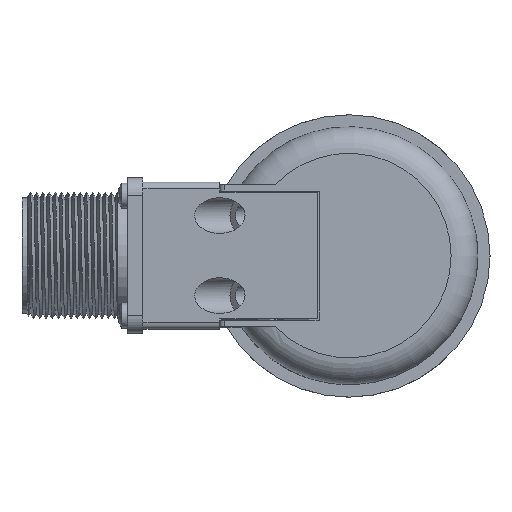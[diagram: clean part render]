
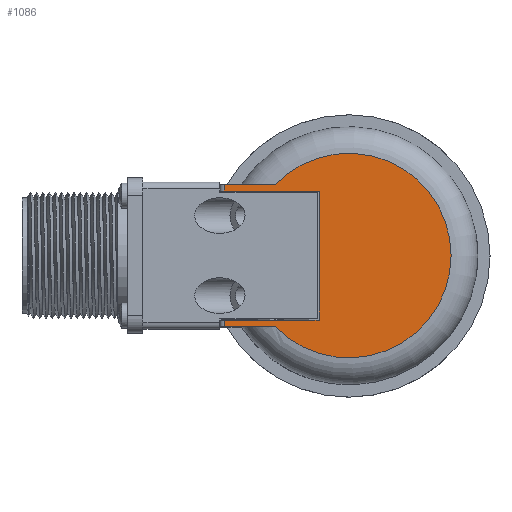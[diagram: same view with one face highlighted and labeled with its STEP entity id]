
A CAD part, top view. The second image highlights one B-rep face of the part: STEP entity #1086.
In plain terms, the highlighted planar face has unit normal (0, 0, 1).
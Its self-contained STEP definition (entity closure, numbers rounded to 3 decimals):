
#1086 = ADVANCED_FACE( '', ( #2645 ), #2646, .T. );
#2645 = FACE_OUTER_BOUND( '', #11415, .T. );
#2646 = PLANE( '', #11416 );
#11415 = EDGE_LOOP( '', ( #20598, #20599, #20600, #20601, #20602, #20603, #20604, #20605 ) );
#11416 = AXIS2_PLACEMENT_3D( '', #20606, #20607, #20608 );
#20598 = ORIENTED_EDGE( '', *, *, #24815, .T. );
#20599 = ORIENTED_EDGE( '', *, *, #24816, .T. );
#20600 = ORIENTED_EDGE( '', *, *, #24491, .T. );
#20601 = ORIENTED_EDGE( '', *, *, #24023, .T. );
#20602 = ORIENTED_EDGE( '', *, *, #24817, .F. );
#20603 = ORIENTED_EDGE( '', *, *, #24818, .F. );
#20604 = ORIENTED_EDGE( '', *, *, #24448, .T. );
#20605 = ORIENTED_EDGE( '', *, *, #24719, .T. );
#20606 = CARTESIAN_POINT( '', ( -29., 29., 49.9 ) );
#20607 = DIRECTION( '', ( 0., 0., 1. ) );
#20608 = DIRECTION( '', ( 0., -1., 0. ) );
#24023 = EDGE_CURVE( '', #26214, #26212, #26215, .T. );
#24448 = EDGE_CURVE( '', #26914, #26918, #26920, .T. );
#24491 = EDGE_CURVE( '', #26985, #26214, #26988, .T. );
#24719 = EDGE_CURVE( '', #26918, #27346, #27348, .T. );
#24815 = EDGE_CURVE( '', #27346, #27490, #27491, .T. );
#24816 = EDGE_CURVE( '', #27490, #26985, #27492, .T. );
#24817 = EDGE_CURVE( '', #27493, #26212, #27494, .T. );
#24818 = EDGE_CURVE( '', #26914, #27493, #27495, .T. );
#26212 = VERTEX_POINT( '', #29768 );
#26214 = VERTEX_POINT( '', #29771 );
#26215 = LINE( '', #29772, #29773 );
#26914 = VERTEX_POINT( '', #32870 );
#26918 = VERTEX_POINT( '', #32875 );
#26920 = LINE( '', #32877, #32878 );
#26985 = VERTEX_POINT( '', #33074 );
#26988 = LINE( '', #33078, #33079 );
#27346 = VERTEX_POINT( '', #34560 );
#27348 = LINE( '', #34574, #34575 );
#27490 = VERTEX_POINT( '', #34828 );
#27491 = CIRCLE( '', #34829, 23. );
#27492 = LINE( '', #34830, #34831 );
#27493 = VERTEX_POINT( '', #34832 );
#27494 = LINE( '', #34833, #34834 );
#27495 = LINE( '', #34835, #34836 );
#29768 = CARTESIAN_POINT( '', ( -6.7, 14.5, 49.9 ) );
#29771 = CARTESIAN_POINT( '', ( -28., 14.5, 49.9 ) );
#29772 = CARTESIAN_POINT( '', ( -29., 14.5, 49.9 ) );
#29773 = VECTOR( '', #38208, 1000. );
#32870 = CARTESIAN_POINT( '', ( -28., -14.5, 49.9 ) );
#32875 = CARTESIAN_POINT( '', ( -28., -16., 49.9 ) );
#32877 = CARTESIAN_POINT( '', ( -28., -16., 49.9 ) );
#32878 = VECTOR( '', #38701, 1000. );
#33074 = CARTESIAN_POINT( '', ( -28., 16., 49.9 ) );
#33078 = CARTESIAN_POINT( '', ( -28., 14.5, 49.9 ) );
#33079 = VECTOR( '', #38741, 1000. );
#34560 = CARTESIAN_POINT( '', ( -16.523, -16., 49.9 ) );
#34574 = CARTESIAN_POINT( '', ( -24.187, -16., 49.9 ) );
#34575 = VECTOR( '', #39016, 1000. );
#34828 = CARTESIAN_POINT( '', ( -16.523, 16., 49.9 ) );
#34829 = AXIS2_PLACEMENT_3D( '', #39121, #39122, #39123 );
#34830 = CARTESIAN_POINT( '', ( -29., 16., 49.9 ) );
#34831 = VECTOR( '', #39124, 1000. );
#34832 = CARTESIAN_POINT( '', ( -6.7, -14.5, 49.9 ) );
#34833 = CARTESIAN_POINT( '', ( -6.7, -14.5, 49.9 ) );
#34834 = VECTOR( '', #39125, 1000. );
#34835 = CARTESIAN_POINT( '', ( -29., -14.5, 49.9 ) );
#34836 = VECTOR( '', #39126, 1000. );
#38208 = DIRECTION( '', ( 1., 0., 0. ) );
#38701 = DIRECTION( '', ( 0., -1., 0. ) );
#38741 = DIRECTION( '', ( 0., -1., 0. ) );
#39016 = DIRECTION( '', ( 1., 0., 0. ) );
#39121 = CARTESIAN_POINT( '', ( 0., 0., 49.9 ) );
#39122 = DIRECTION( '', ( 0., 0., 1. ) );
#39123 = DIRECTION( '', ( 0., -1., 0. ) );
#39124 = DIRECTION( '', ( -1., 0., 0. ) );
#39125 = DIRECTION( '', ( 0., 1., 0. ) );
#39126 = DIRECTION( '', ( 1., 0., 0. ) );
